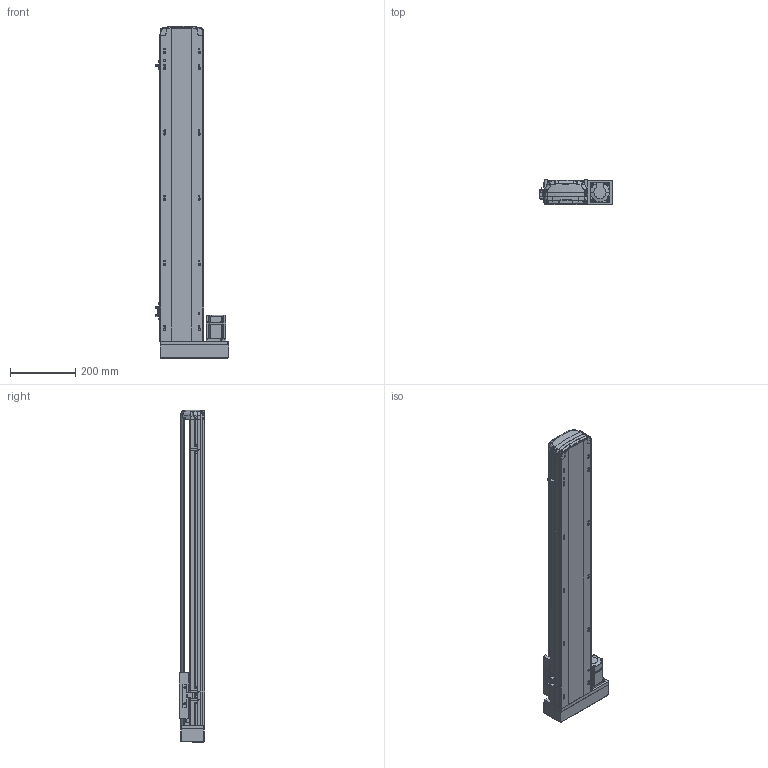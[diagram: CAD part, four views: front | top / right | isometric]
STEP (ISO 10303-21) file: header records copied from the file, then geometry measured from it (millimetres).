
FILE_DESCRIPTION (( 'STEP AP214' ), '1' );
FILE_NAME ('RTH14-XX-750-R-M20-C4.STEP', '2025-10-24T09:55:54', ( 'Microsoft' ), ( 'Microsoft' ), 'SwSTEP 2.0', 'SolidWorks 2018', '' );
FILE_SCHEMA (( 'AUTOMOTIVE_DESIGN' ));
Length unit declared in the file: millimetre
Products named in the file (10): N_RTH13-L-008-P20 萇儂啣酘蛌殏^RTH14-XX-XX-R-M20-C4; N_RTH14-M-011P菁釱^RTH14-XX-XX-R-M20-C4; N_RTH13-L-018 裔赽^RTH14-XX-XX-R-M20-C4; N_RTH14-GY-001P^RTH14-XX-XX-R-M20-C4; N_OMRON EE-SX672 传感器^RTH14-XX-XX-R-M20-C4; RTH14-XX-750-R-M20-C4; N_RTH13-L-012感应片（外置）^RTH14-XX-XX-R-M20-C4; N_RTH14-M-007P奻裔^RTH14-XX-XX-R-M20-C4; N_RTH14-R-004-SFSR16賑釱^RTH14-XX-XX-R-M20-C4; N_MSMD022P1AA_200W^RTH14-XX-XX-R-M20-C4
Assembly tree (11 placements, depth 2):
  RTH14-XX-750-R-M20-C4
    N_RTH14-M-011P菁釱^RTH14-XX-XX-R-M20-C4
    N_RTH14-M-007P奻裔^RTH14-XX-XX-R-M20-C4
    N_MSMD022P1AA_200W^RTH14-XX-XX-R-M20-C4
    N_RTH13-L-008-P20 萇儂啣酘蛌殏^RTH14-XX-XX-R-M20-C4
    N_RTH13-L-018 裔赽^RTH14-XX-XX-R-M20-C4
    N_RTH13-L-012感应片（外置）^RTH14-XX-XX-R-M20-C4
    N_OMRON EE-SX672 传感器^RTH14-XX-XX-R-M20-C4  x3
    N_RTH14-R-004-SFSR16賑釱^RTH14-XX-XX-R-M20-C4
    N_RTH14-GY-001P^RTH14-XX-XX-R-M20-C4
Bounding box: 224 x 78.03 x 1017.73 mm (x, y, z)
Volume: 4488792.2 mm3; surface area: 1054873.8 mm2
Topology: 10 solids, 12 shells, 1883 faces, 5272 edges, 3457 vertices
Faces by surface type: plane 991, cylinder 497, bspline 346, cone 45, torus 4
Entity records: 57679 total; most frequent: CARTESIAN_POINT 23227, ORIENTED_EDGE 7601, DIRECTION 6114, EDGE_CURVE 3806, VERTEX_POINT 2493, LINE 2168, VECTOR 2168, AXIS2_PLACEMENT_3D 1973
